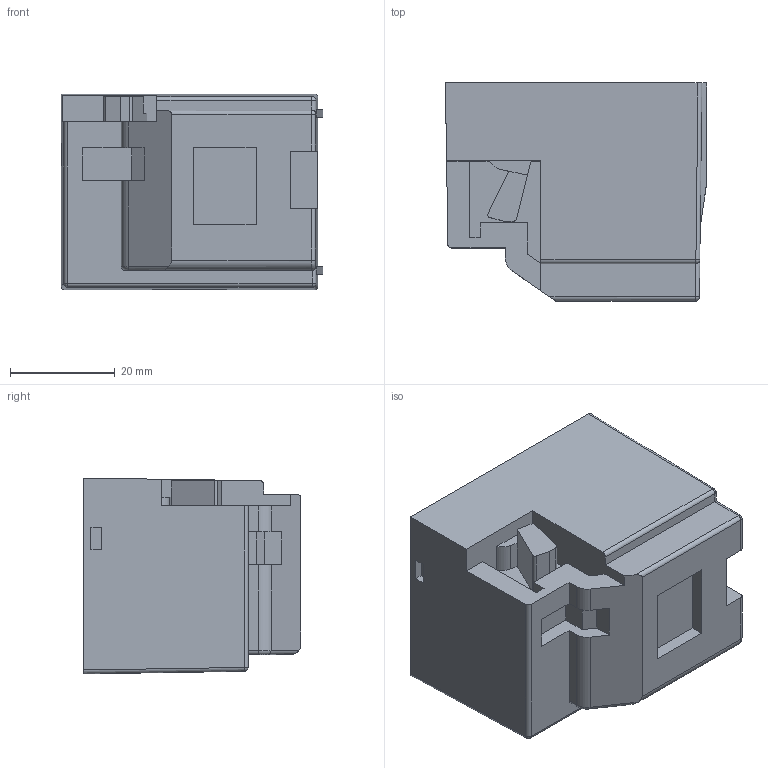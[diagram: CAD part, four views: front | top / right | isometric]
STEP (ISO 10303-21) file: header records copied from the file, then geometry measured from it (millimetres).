
FILE_DESCRIPTION(/* description */ (''),/* implementation_level */ '2;1');
FILE_NAME(/* name */ '2023.11.10.stp',/* time_stamp */ '2023-11-10T14:09:32+08:00',/* author */ (''),/* organization */ (''),/* preprocessor_version */ 'ST-DEVELOPER v16',/* originating_system */ 'SIEMENS PLM Software NX 10.0',/* authorisation */ '');
FILE_SCHEMA (('AUTOMOTIVE_DESIGN { 1 0 10303 214 3 1 1 1 }'));
Length unit declared in the file: millimetre
Products named in the file (1): midi08580DE3vsb6
Bounding box: 49.9 x 41.6 x 37.4 mm (x, y, z)
Volume: 62377.8 mm3; surface area: 11433.9 mm2
Topology: 1 solids, 1 shells, 97 faces, 260 edges, 165 vertices
Faces by surface type: plane 70, cylinder 21, sphere 4, torus 1, bspline 1
Entity records: 3008 total; most frequent: CARTESIAN_POINT 550, ORIENTED_EDGE 512, DIRECTION 488, EDGE_CURVE 256, LINE 212, VECTOR 212, VERTEX_POINT 165, AXIS2_PLACEMENT_3D 138
